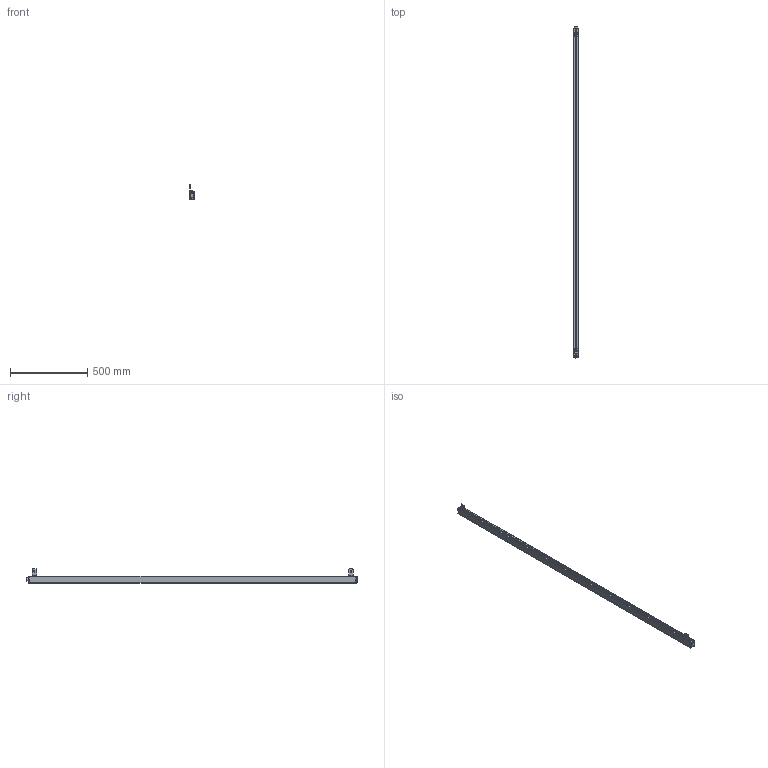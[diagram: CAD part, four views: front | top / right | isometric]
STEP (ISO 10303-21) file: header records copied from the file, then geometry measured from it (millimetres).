
FILE_DESCRIPTION((''),'2;1');
FILE_NAME('ESCL-00_ASM','2021-07-17T11:16:04',('18720616900'),(''),'CREO PARAMETRIC BY PTC INC, 2019010','CREO PARAMETRIC BY PTC INC, 2019010','');
FILE_SCHEMA(('CONFIG_CONTROL_DESIGN'));
Products named in the file (12): ESCL-00; ESCL-3-SOLID1000; ESCL-4-SOLID1000; HKCT1_-4-SOLID1; L10001; M6-8--0001; M6-1--00; M6-1-00; 00; M6-80001_ASM; L1--0001_ASM; ESCL-00_ASM
Assembly tree (12 placements, depth 4):
  ESCL-00_ASM
    ESCL-00
    ESCL-3-SOLID1000
    ESCL-4-SOLID1000
    HKCT1_-4-SOLID1
    L1--0001_ASM  x2
      L10001
      M6-80001_ASM
        M6-8--0001
        M6-1--00
        M6-1-00
        00
Bounding box: 36.1 x 2145.1 x 91.11 mm (x, y, z)
Volume: 3069197.3 mm3; surface area: 441547.8 mm2
Topology: 14 solids, 14 shells, 625 faces, 1645 edges, 1070 vertices
Faces by surface type: plane 226, cylinder 208, cone 78, bspline 66, torus 47
Entity records: 76177 total; most frequent: CARTESIAN_POINT 63991, ORIENTED_EDGE 2664, DIRECTION 2275, EDGE_CURVE 1332, VERTEX_POINT 872, AXIS2_PLACEMENT_3D 816, VECTOR 643, LINE 643
